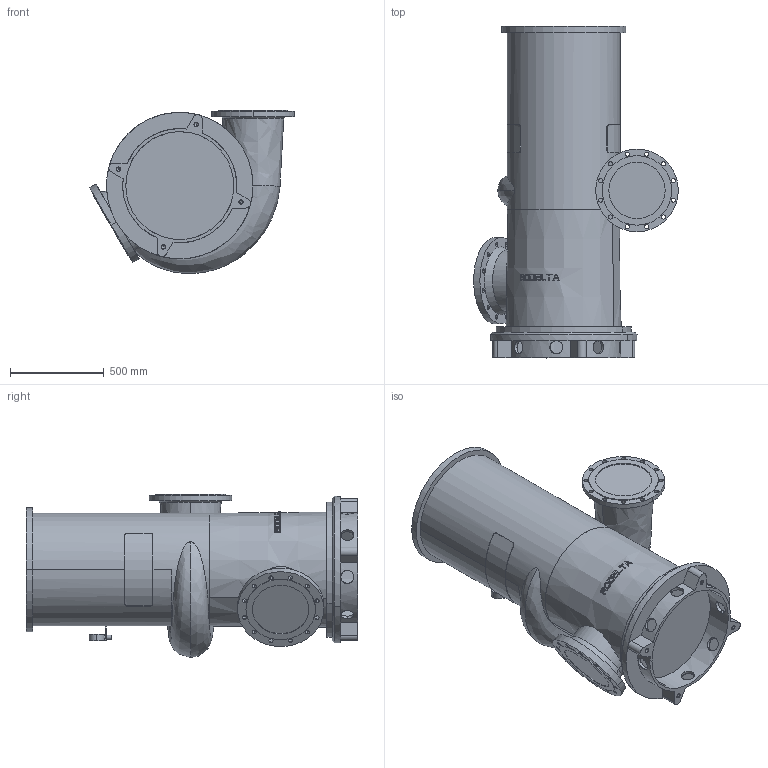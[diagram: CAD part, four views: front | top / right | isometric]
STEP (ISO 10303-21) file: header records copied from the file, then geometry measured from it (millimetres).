
FILE_DESCRIPTION((''),'2;1');
FILE_NAME('12-520_ASM','2024-08-06T',('Lyritlocal'),(''),'PRO/ENGINEER BY PARAMETRIC TECHNOLOGY CORPORATION, 2016360','PRO/ENGINEER BY PARAMETRIC TECHNOLOGY CORPORATION, 2016360','');
FILE_SCHEMA(('CONFIG_CONTROL_DESIGN'));
Length unit declared in the file: millimetre
Products named in the file (3): 12-520; 12-520_VOET; 12-520_ASM
Assembly tree (2 placements, depth 2):
  12-520_ASM
    12-520
    12-520_VOET
Bounding box: 1089.6 x 1766.5 x 867.96 mm (x, y, z)
Volume: 566586530 mm3; surface area: 6652634.1 mm2
Topology: 2 solids, 6 shells, 503 faces, 1366 edges, 900 vertices
Faces by surface type: plane 323, cylinder 138, cone 36, bspline 6
Entity records: 17785 total; most frequent: CARTESIAN_POINT 5428, ORIENTED_EDGE 2700, DIRECTION 2313, EDGE_CURVE 1358, VERTEX_POINT 900, AXIS2_PLACEMENT_3D 896, EDGE_LOOP 608, VECTOR 521
